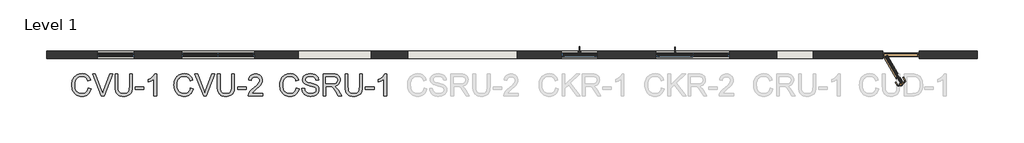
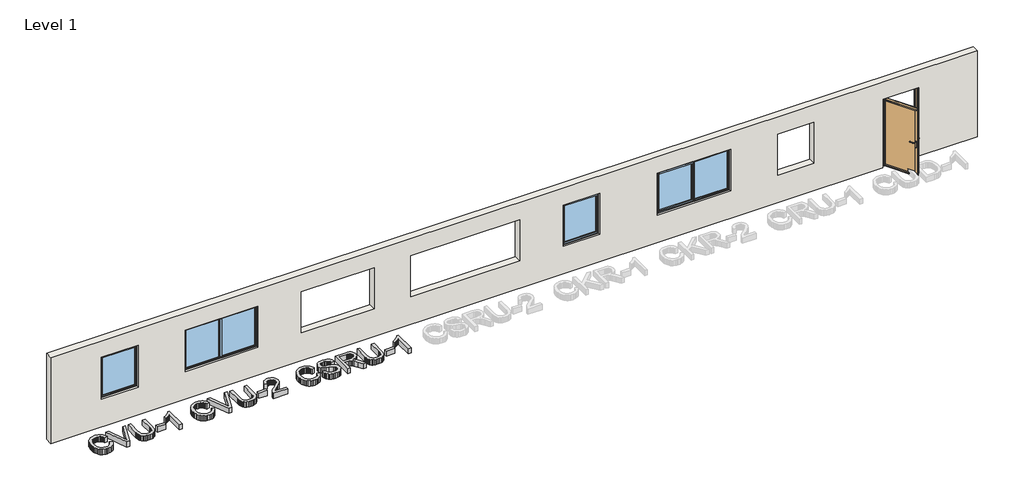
# One storey, part 1 of 2: 4 windows, 3 proxies, 1 door, 1 wall.
"""IFC4 building model written with IfcOpenShell, lengths in millimetres."""

from ifc_helpers import new_model, si_unit, frame, origin, origin_with_axes, place, context, project, spatial, polyline, outline, extrude, transform, mapped, element, save
from components import door_c66387b3, window_e89d8955, window_129eb522, window_659a14fe, window_532ae94f

model = new_model("IFC4")

# Units and contexts
model_context = context("Model", 3, world=origin())
ifc_project = project(units=[si_unit("LENGTHUNIT", "METRE", prefix="MILLI")], contexts=[model_context])

# Site, building, storey
site = spatial("IfcSite", under=ifc_project)
building = spatial("IfcBuilding", under=site)
storey = spatial("IfcBuildingStorey", under=building, Name="Level 1", Elevation=0.0)

# Proxies
placement = place(None, origin())
element("IfcBuildingElementProxy", 1, Name="600mm Arial", ObjectType="600mm Arial", at=placement, inside=storey, context=model_context, shape_type="SweptSolid", body=[
    extrude(outline(polyline([(-10827.2834021, -1969.3341374), (-10751.9411695, -1988.7583067), (-10766.8495874, -2035.6126773), (-10786.7060181, -2076.5533449), (-10811.5104616, -2111.5803093), (-10841.262918, -2140.6935707), (-10875.2920025, -2163.5804293), (-10912.9263306, -2179.9281855), (-10954.1659023, -2189.7368392), (-10999.0107175, -2193.0063904), (-11044.9545802, -2190.532384), (-11086.4010855, -2183.1103648), (-11123.3502333, -2170.7403327), (-11155.8020238, -2153.4222877), (-11184.2025139, -2131.4137474), (-11208.9977603, -2104.972229), (-11230.1877633, -2074.0977325), (-11247.7725226, -2038.7902581), (-11261.581893, -2000.5765158), (-11271.445729, -1960.9832161), (-11277.3640306, -1920.0103589), (-11279.3367978, -1877.6579442), (-11277.1065132, -1832.2153207), (-11270.4156594, -1789.7709355), (-11259.2642365, -1750.3247886), (-11243.6522443, -1713.8768799), (-11223.9291708, -1681.0296163), (-11200.444504, -1652.3854044), (-11173.1982437, -1627.9442444), (-11142.19039, -1607.7061361), (-11108.4740052, -1591.8366265), (-11073.1021513, -1580.5012626), (-11036.0748285, -1573.7000442), (-10997.3920367, -1571.4329714), (-10954.2992595, -1574.3668303), (-10914.7841347, -1583.168407), (-10878.8466623, -1597.8377016), (-10846.4868423, -1618.374714), (-10818.2381036, -1644.2368182), (-10794.6338751, -1674.8813884), (-10775.6741567, -1710.3084246), (-10761.3589486, -1750.5179266), (-10836.7011812, -1768.470568), (-10848.5653756, -1738.8422718), (-10862.8208029, -1713.527392), (-10879.4674632, -1692.5259286), (-10898.5053564, -1675.8378816), (-10920.0448472, -1663.1229602), (-10944.1963002, -1654.0408734), (-10970.9597154, -1648.5916213), (-11000.3350927, -1646.775204), (-11034.134251, -1648.7893579), (-11065.0455356, -1654.8318197), (-11093.0689466, -1664.9025893), (-11118.2044839, -1679.0016668), (-11140.1348494, -1696.4944556), (-11158.5427447, -1716.7463595), (-11173.4281699, -1739.7573783), (-11184.7911251, -1765.527512), (-11199.1937052, -1820.6730231), (-11203.9945652, -1877.5107914), (-11198.3107884, -1947.1140649), (-11191.2060674, -1978.3840344), (-11181.2594579, -2007.2995593), (-11168.3100117, -2033.2858237), (-11152.1967803, -2055.7680121), (-11132.9197637, -2074.7461246), (-11110.478962, -2090.220161), (-11085.9642256, -2102.2269096), (-11060.4654048, -2110.8031586), (-11033.9824997, -2115.948908), (-11006.5155102, -2117.6641578), (-10973.7602171, -2115.3281071), (-10943.6260831, -2108.3199551), (-10916.1131084, -2096.6397018), (-10891.2212929, -2080.2873471), (-10869.5392478, -2059.3364675), (-10851.6555843, -2033.8606393), (-10837.5703024, -2003.8598626), (-10827.2834021, -1969.3341374)])), origin_with_axes(), (0.0, 0.0, 1.0), 150.0),
    extrude(outline(polyline([(-10470.4378668, -2183.5886114), (-10710.1497749, -1580.8507505), (-10629.5100415, -1580.8507505), (-10468.9663388, -2015.0986576), (-10436.4455705, -2112.9552683), (-10404.3662605, -2015.0986576), (-10243.3810994, -1580.8507505), (-10162.8885189, -1580.8507505), (-10392.7411894, -2183.5886114), (-10470.4378668, -2183.5886114)])), origin_with_axes(), (0.0, 0.0, 1.0), 150.0),
    extrude(outline(polyline([(-9697.149913, -1580.8507505), (-9621.8076804, -1580.8507505), (-9621.8076804, -1928.5728123), (-9626.9212401, -2010.0034919), (-9633.3131898, -2043.6968842), (-9642.2619193, -2072.708978), (-9654.5399809, -2098.1388209), (-9670.9199267, -2121.0854604), (-9691.4017568, -2141.5488964), (-9715.9854711, -2159.5291289), (-9744.6986608, -2174.1754308), (-9777.5689171, -2184.637075), (-9814.5962399, -2190.9140616), (-9855.7806293, -2193.0063904), (-9895.9487446, -2191.1853746), (-9932.2816902, -2185.7223269), (-9964.7794659, -2176.6172475), (-9993.4420719, -2163.8701364), (-10018.2741066, -2147.669533), (-10039.2801685, -2128.203977), (-10056.4602577, -2105.4734682), (-10069.8143741, -2079.4780067), (-10079.8253629, -2049.3254787), (-10086.9760692, -2014.1237703), (-10091.2664929, -1973.8728815), (-10092.6966342, -1928.5728123), (-10092.6966342, -1580.8507505), (-10017.3544016, -1580.8507505), (-10017.3544016, -1925.9240619), (-10013.6387934, -1993.6327431), (-10002.491969, -2040.7768208), (-9993.7271804, -2058.1546466), (-9982.2952474, -2073.4263479), (-9968.19617, -2086.5919248), (-9951.429948, -2097.6513773), (-9911.1836578, -2112.6609627), (-9862.8439636, -2117.6641578), (-9821.3192834, -2115.1901514), (-9786.214144, -2107.7681321), (-9757.5285454, -2095.3981001), (-9735.2624877, -2078.0800551), (-9718.5882362, -2053.7262671), (-9706.6780566, -2020.2490055), (-9699.5319489, -1977.6482705), (-9697.149913, -1925.9240619), (-9697.149913, -1580.8507505)])), origin_with_axes(), (0.0, 0.0, 1.0), 150.0),
    extrude(outline(polyline([(-9537.0476687, -2004.6508089), (-9537.0476687, -1929.3085763), (-9301.6031918, -1929.3085763), (-9301.6031918, -2004.6508089), (-9537.0476687, -2004.6508089)])), origin_with_axes(), (0.0, 0.0, 1.0), 150.0),
    extrude(outline(polyline([(-8953.1453659, -2183.5886114), (-9028.4875985, -2183.5886114), (-9028.4875985, -1713.8768799), (-9059.9415091, -1739.3159199), (-9099.8567056, -1764.7181716), (-9141.7584648, -1786.9198501), (-9179.1720638, -1802.7571699), (-9179.1720638, -1731.5352157), (-9119.9982448, -1699.3455411), (-9068.7338888, -1661.0490254), (-9028.3220516, -1620.3244885), (-9001.7057893, -1580.8507505), (-8953.1453659, -1580.8507505), (-8953.1453659, -2183.5886114)])), origin_with_axes(), (0.0, 0.0, 1.0), 150.0),
])
element("IfcBuildingElementProxy", 2, Name="600mm Arial", ObjectType="600mm Arial", at=placement, inside=storey, context=model_context, shape_type="SweptSolid", body=[
    extrude(outline(polyline([(-8027.2834021, -1969.3341374), (-7951.9411695, -1988.7583067), (-7966.8495874, -2035.6126773), (-7986.7060181, -2076.5533449), (-8011.5104616, -2111.5803093), (-8041.262918, -2140.6935707), (-8075.2920025, -2163.5804293), (-8112.9263306, -2179.9281855), (-8154.1659023, -2189.7368392), (-8199.0107175, -2193.0063904), (-8244.9545802, -2190.532384), (-8286.4010855, -2183.1103648), (-8323.3502333, -2170.7403327), (-8355.8020238, -2153.4222877), (-8384.2025139, -2131.4137474), (-8408.9977603, -2104.972229), (-8430.1877633, -2074.0977325), (-8447.7725226, -2038.7902581), (-8461.581893, -2000.5765158), (-8471.445729, -1960.9832161), (-8477.3640306, -1920.0103589), (-8479.3367978, -1877.6579442), (-8477.1065132, -1832.2153207), (-8470.4156594, -1789.7709355), (-8459.2642365, -1750.3247886), (-8443.6522443, -1713.8768799), (-8423.9291708, -1681.0296163), (-8400.444504, -1652.3854044), (-8373.1982437, -1627.9442444), (-8342.19039, -1607.7061361), (-8308.4740052, -1591.8366265), (-8273.1021513, -1580.5012626), (-8236.0748285, -1573.7000442), (-8197.3920367, -1571.4329714), (-8154.2992595, -1574.3668303), (-8114.7841347, -1583.168407), (-8078.8466623, -1597.8377016), (-8046.4868423, -1618.374714), (-8018.2381036, -1644.2368182), (-7994.6338751, -1674.8813884), (-7975.6741567, -1710.3084246), (-7961.3589486, -1750.5179266), (-8036.7011812, -1768.470568), (-8048.5653756, -1738.8422718), (-8062.8208029, -1713.527392), (-8079.4674632, -1692.5259286), (-8098.5053564, -1675.8378816), (-8120.0448472, -1663.1229602), (-8144.1963002, -1654.0408734), (-8170.9597154, -1648.5916213), (-8200.3350927, -1646.775204), (-8234.134251, -1648.7893579), (-8265.0455356, -1654.8318197), (-8293.0689466, -1664.9025893), (-8318.2044839, -1679.0016668), (-8340.1348494, -1696.4944556), (-8358.5427447, -1716.7463595), (-8373.4281699, -1739.7573783), (-8384.7911251, -1765.527512), (-8399.1937052, -1820.6730231), (-8403.9945652, -1877.5107914), (-8398.3107884, -1947.1140649), (-8391.2060674, -1978.3840344), (-8381.2594579, -2007.2995593), (-8368.3100117, -2033.2858237), (-8352.1967803, -2055.7680121), (-8332.9197637, -2074.7461246), (-8310.478962, -2090.220161), (-8285.9642256, -2102.2269096), (-8260.4654048, -2110.8031586), (-8233.9824997, -2115.948908), (-8206.5155102, -2117.6641578), (-8173.7602171, -2115.3281071), (-8143.6260831, -2108.3199551), (-8116.1131084, -2096.6397018), (-8091.2212929, -2080.2873471), (-8069.5392478, -2059.3364675), (-8051.6555843, -2033.8606393), (-8037.5703024, -2003.8598626), (-8027.2834021, -1969.3341374)])), origin_with_axes(), (0.0, 0.0, 1.0), 150.0),
    extrude(outline(polyline([(-7670.4378668, -2183.5886114), (-7910.1497749, -1580.8507505), (-7829.5100415, -1580.8507505), (-7668.9663388, -2015.0986576), (-7636.4455705, -2112.9552683), (-7604.3662605, -2015.0986576), (-7443.3810994, -1580.8507505), (-7362.8885189, -1580.8507505), (-7592.7411894, -2183.5886114), (-7670.4378668, -2183.5886114)])), origin_with_axes(), (0.0, 0.0, 1.0), 150.0),
    extrude(outline(polyline([(-6897.149913, -1580.8507505), (-6821.8076804, -1580.8507505), (-6821.8076804, -1928.5728123), (-6826.9212401, -2010.0034919), (-6833.3131898, -2043.6968842), (-6842.2619193, -2072.708978), (-6854.5399809, -2098.1388209), (-6870.9199267, -2121.0854604), (-6891.4017568, -2141.5488964), (-6915.9854711, -2159.5291289), (-6944.6986608, -2174.1754308), (-6977.5689171, -2184.637075), (-7014.5962399, -2190.9140616), (-7055.7806293, -2193.0063904), (-7095.9487446, -2191.1853746), (-7132.2816902, -2185.7223269), (-7164.7794659, -2176.6172475), (-7193.4420719, -2163.8701364), (-7218.2741066, -2147.669533), (-7239.2801685, -2128.203977), (-7256.4602577, -2105.4734682), (-7269.8143741, -2079.4780067), (-7279.8253629, -2049.3254787), (-7286.9760692, -2014.1237703), (-7291.2664929, -1973.8728815), (-7292.6966342, -1928.5728123), (-7292.6966342, -1580.8507505), (-7217.3544016, -1580.8507505), (-7217.3544016, -1925.9240619), (-7213.6387934, -1993.6327431), (-7202.491969, -2040.7768208), (-7193.7271804, -2058.1546466), (-7182.2952474, -2073.4263479), (-7168.19617, -2086.5919248), (-7151.429948, -2097.6513773), (-7111.1836578, -2112.6609627), (-7062.8439636, -2117.6641578), (-7021.3192834, -2115.1901514), (-6986.214144, -2107.7681321), (-6957.5285454, -2095.3981001), (-6935.2624877, -2078.0800551), (-6918.5882362, -2053.7262671), (-6906.6780566, -2020.2490055), (-6899.5319489, -1977.6482705), (-6897.149913, -1925.9240619), (-6897.149913, -1580.8507505)])), origin_with_axes(), (0.0, 0.0, 1.0), 150.0),
    extrude(outline(polyline([(-6737.0476687, -2004.6508089), (-6737.0476687, -1929.3085763), (-6501.6031918, -1929.3085763), (-6501.6031918, -2004.6508089), (-6737.0476687, -2004.6508089)])), origin_with_axes(), (0.0, 0.0, 1.0), 150.0),
    extrude(outline(polyline([(-6049.5497961, -2108.2463787), (-6049.5497961, -2183.5886114), (-6445.0965173, -2183.5886114), (-6443.4410483, -2157.0643195), (-6437.0031134, -2131.6436736), (-6418.4066785, -2091.0478955), (-6391.1650168, -2051.6661279), (-6351.7832492, -2010.4449503), (-6296.7664968, -1964.3309422), (-6215.48297, -1892.1157066), (-6166.7569997, -1838.8096055), (-6152.5613533, -1817.0309914), (-6142.4216058, -1795.5466828), (-6136.3377573, -1774.3566799), (-6134.3098078, -1753.4609826), (-6136.2273927, -1733.8022885), (-6141.9801474, -1715.734684), (-6151.5680719, -1699.2581691), (-6164.9911662, -1684.3727439), (-6181.5044692, -1672.0440985), (-6200.36302, -1663.2379233), (-6221.5668185, -1657.9542181), (-6245.1158647, -1656.1929831), (-6269.9249068, -1657.9128314), (-6292.1127896, -1663.0723764), (-6311.6795132, -1671.671618), (-6328.6250776, -1683.7105563), (-6342.3332805, -1698.7845211), (-6352.1879194, -1716.4888421), (-6358.1889945, -1736.8235194), (-6360.3365056, -1759.7885529), (-6435.6787382, -1750.3707738), (-6429.1994166, -1711.4764499), (-6417.4133972, -1677.4933506), (-6400.32068, -1648.4214759), (-6377.921265, -1624.2608259), (-6350.730187, -1605.2689179), (-6319.2624808, -1591.7032693), (-6283.5181465, -1583.5638802), (-6243.4971839, -1580.8507505), (-6203.1175364, -1583.8673828), (-6167.180064, -1592.9172799), (-6135.6847667, -1608.0004417), (-6108.6316445, -1629.1168682), (-6086.9036142, -1654.703061), (-6071.3835925, -1683.1955215), (-6062.0715795, -1714.5942498), (-6058.9675752, -1748.8992459), (-6062.3153013, -1784.9332873), (-6072.3584798, -1820.3419293), (-6090.1823624, -1856.3575766), (-6116.8722012, -1894.2126339), (-6159.4177539, -1939.4069371), (-6224.8087786, -1997.4403218), (-6311.4817766, -2069.9130748), (-6345.474073, -2108.2463787), (-6049.5497961, -2108.2463787)])), origin_with_axes(), (0.0, 0.0, 1.0), 150.0),
])
element("IfcBuildingElementProxy", 3, Name="600mm Arial", ObjectType="600mm Arial", at=placement, inside=storey, context=model_context, shape_type="SweptSolid", body=[
    extrude(outline(polyline([(-5128.6523326, -1969.3341374), (-5053.3101, -1988.7583067), (-5068.2185178, -2035.6126773), (-5088.0749485, -2076.5533449), (-5112.8793921, -2111.5803093), (-5142.6318484, -2140.6935707), (-5176.660933, -2163.5804293), (-5214.2952611, -2179.9281855), (-5255.5348327, -2189.7368392), (-5300.3796479, -2193.0063904), (-5346.3235106, -2190.532384), (-5387.7700159, -2183.1103648), (-5424.7191638, -2170.7403327), (-5457.1709543, -2153.4222877), (-5485.5714443, -2131.4137474), (-5510.3666908, -2104.972229), (-5531.5566937, -2074.0977325), (-5549.1414531, -2038.7902581), (-5562.9508235, -2000.5765158), (-5572.8146595, -1960.9832161), (-5578.7329611, -1920.0103589), (-5580.7057283, -1877.6579442), (-5578.4754437, -1832.2153207), (-5571.7845899, -1789.7709355), (-5560.6331669, -1750.3247886), (-5545.0211747, -1713.8768799), (-5525.2981013, -1681.0296163), (-5501.8134344, -1652.3854044), (-5474.5671741, -1627.9442444), (-5443.5593205, -1607.7061361), (-5409.8429356, -1591.8366265), (-5374.4710818, -1580.5012626), (-5337.443759, -1573.7000442), (-5298.7609672, -1571.4329714), (-5255.66819, -1574.3668303), (-5216.1530651, -1583.168407), (-5180.2155927, -1597.8377016), (-5147.8557727, -1618.374714), (-5119.607034, -1644.2368182), (-5096.0028055, -1674.8813884), (-5077.0430872, -1710.3084246), (-5062.7278791, -1750.5179266), (-5138.0701117, -1768.470568), (-5149.934306, -1738.8422718), (-5164.1897333, -1713.527392), (-5180.8363936, -1692.5259286), (-5199.8742869, -1675.8378816), (-5221.4137777, -1663.1229602), (-5245.5652307, -1654.0408734), (-5272.3286458, -1648.5916213), (-5301.7040231, -1646.775204), (-5335.5031814, -1648.7893579), (-5366.4144661, -1654.8318197), (-5394.4378771, -1664.9025893), (-5419.5734144, -1679.0016668), (-5441.5037798, -1696.4944556), (-5459.9116752, -1716.7463595), (-5474.7971004, -1739.7573783), (-5486.1600555, -1765.527512), (-5500.5626356, -1820.6730231), (-5505.3634957, -1877.5107914), (-5499.6797188, -1947.1140649), (-5492.5749978, -1978.3840344), (-5482.6283884, -2007.2995593), (-5469.6789421, -2033.2858237), (-5453.5657107, -2055.7680121), (-5434.2886942, -2074.7461246), (-5411.8478925, -2090.220161), (-5387.333156, -2102.2269096), (-5361.8343352, -2110.8031586), (-5335.3514301, -2115.948908), (-5307.8844406, -2117.6641578), (-5275.1291475, -2115.3281071), (-5244.9950136, -2108.3199551), (-5217.4820389, -2096.6397018), (-5192.5902234, -2080.2873471), (-5170.9081783, -2059.3364675), (-5153.0245148, -2033.8606393), (-5138.9392329, -2003.8598626), (-5128.6523326, -1969.3341374)])), origin_with_axes(), (0.0, 0.0, 1.0), 150.0),
    extrude(outline(polyline([(-4977.9678674, -1976.3974717), (-4902.6256348, -1976.3974717), (-4893.9804079, -2018.2072604), (-4878.3454231, -2051.8132807), (-4853.9548468, -2078.4847253), (-4819.0428455, -2099.4907873), (-4776.368534, -2113.1208152), (-4728.6910274, -2117.6641578), (-4686.7156918, -2114.2244612), (-4649.9642805, -2103.9053712), (-4620.184233, -2087.5714106), (-4599.1229887, -2066.0871021), (-4586.5966068, -2041.4206143), (-4582.4211462, -2015.540116), (-4585.5481431, -1990.3218052), (-4594.929134, -1968.524797), (-4613.9854213, -1949.9283621), (-4646.1383077, -1934.3117714), (-4755.8407187, -1905.5433994), (-4827.8536192, -1886.5055061), (-4873.9308391, -1868.3873179), (-4911.4364085, -1843.0402484), (-4938.0158827, -1812.3221018), (-4953.8532026, -1776.8950657), (-4959.1323092, -1737.4213276), (-4957.4998329, -1714.9851244), (-4952.6024038, -1693.2938823), (-4944.440022, -1672.3476012), (-4933.0126876, -1652.1462811), (-4918.4491591, -1633.5130581), (-4900.8781953, -1617.271068), (-4880.2997962, -1603.4203109), (-4856.7139618, -1591.9607867), (-4803.7021663, -1576.5649252), (-4745.024988, -1571.4329714), (-4681.4549793, -1576.8040485), (-4625.8312216, -1592.9172799), (-4601.4958276, -1604.91943), (-4580.1402778, -1619.4415718), (-4561.7645721, -1636.4837052), (-4546.3687106, -1656.0458303), (-4534.0722549, -1677.5577299), (-4524.9947667, -1700.4491871), (-4519.1362459, -1724.7202017), (-4516.4966926, -1750.3707738), (-4591.8389252, -1750.3707738), (-4596.8789086, -1726.3296854), (-4605.6712883, -1705.415594), (-4618.2160643, -1687.6284996), (-4634.5132367, -1672.968402), (-4654.8663081, -1661.5088779), (-4679.5787811, -1653.3235035), (-4708.6506558, -1648.4122789), (-4742.0819321, -1646.775204), (-4776.5800662, -1648.3938848), (-4806.056611, -1653.2499271), (-4830.5115667, -1661.343331), (-4849.9449331, -1672.6740965), (-4864.7521834, -1686.2949273), (-4875.3287907, -1701.2585275), (-4881.6747551, -1717.5648969), (-4883.7900766, -1735.2140356), (-4882.2909575, -1750.398365), (-4877.7936001, -1764.1663487), (-4870.2980044, -1776.5179866), (-4859.8041705, -1787.4532789), (-4843.2862689, -1797.8091571), (-4817.2770119, -1808.2753999), (-4736.7844313, -1829.5389792), (-4653.7166768, -1849.7357007), (-4603.4639963, -1867.3572483), (-4560.5137733, -1894.6908805), (-4543.9084998, -1910.7581267), (-4530.5497848, -1928.4256595), (-4520.2812786, -1947.6015085), (-4512.9466314, -1968.1937032), (-4507.0789135, -2013.6271296), (-4508.7665722, -2037.1945699), (-4513.8295482, -2060.0722315), (-4522.2678414, -2082.2601143), (-4534.081452, -2103.7582184), (-4549.0634462, -2123.7342107), (-4567.0068906, -2141.3557583), (-4587.9117849, -2156.6228611), (-4611.7781294, -2169.5355191), (-4637.9115466, -2179.8040253), (-4665.6176594, -2187.1386726), (-4725.7479715, -2193.0063904), (-4764.288209, -2191.4244979), (-4799.5634938, -2186.6788201), (-4831.5738259, -2178.7693572), (-4860.3192053, -2167.6961092), (-4885.974376, -2153.4406818), (-4908.7140818, -2135.9846812), (-4928.5383228, -2115.3281071), (-4945.447099, -2091.4709598), (-4959.0679299, -2065.1857912), (-4969.0283349, -2037.2451537), (-4975.3283141, -2007.6490472), (-4977.9678674, -1976.3974717)])), origin_with_axes(), (0.0, 0.0, 1.0), 150.0),
    extrude(outline(polyline([(-4394.0655646, -2183.5886114), (-4394.0655646, -1580.8507505), (-4134.340876, -1580.8507505), (-4064.5352674, -1584.9158465), (-4013.749158, -1597.1111346), (-3994.1502447, -1606.8048252), (-3976.6298647, -1619.6255127), (-3961.188018, -1635.5731972), (-3947.8247045, -1654.6478787), (-3937.0411635, -1675.824086), (-3929.3386342, -1698.0763482), (-3924.7171167, -1721.4046652), (-3923.1766108, -1745.8090371), (-3925.7287921, -1776.766307), (-3933.3853362, -1805.1851911), (-3946.1462429, -1831.0656895), (-3964.0115123, -1854.4078021), (-3987.2110706, -1874.4665679), (-4015.9748441, -1890.4970258), (-4050.3028328, -1902.4991759), (-4090.1950366, -1910.4730181), (-4065.3630019, -1926.6966141), (-4047.3735724, -1942.6994809), (-4016.508273, -1979.3037394), (-3986.3051612, -2020.2490055), (-3885.7998001, -2183.5886114), (-3973.3557149, -2183.5886114), (-4051.7881563, -2058.6558858), (-4108.4419836, -1975.9560133), (-4129.5032278, -1951.8413485), (-4148.2468155, -1936.8869454), (-4184.0785218, -1922.5395476), (-4227.7829028, -1919.8907972), (-4318.723332, -1919.8907972), (-4318.723332, -2183.5886114), (-4394.0655646, -2183.5886114)]), holes=[polyline([(-4318.723332, -1844.5485646), (-4150.0862254, -1844.5485646), (-4101.6545608, -1841.8814201), (-4064.075415, -1833.8799867), (-4035.7852895, -1820.0108355), (-4015.220686, -1799.7405376), (-4002.6943041, -1775.2212026), (-3998.5188434, -1748.6049403), (-4000.5100047, -1729.3371208), (-4006.4834886, -1711.8535289), (-4016.4392951, -1696.1541648), (-4030.3774242, -1682.2390283), (-4048.6197726, -1670.8438835), (-4071.4882372, -1662.7044944), (-4098.9828178, -1657.8208609), (-4131.1035145, -1656.1929831), (-4318.723332, -1656.1929831), (-4318.723332, -1844.5485646)])]), origin_with_axes(), (0.0, 0.0, 1.0), 150.0),
    extrude(outline(polyline([(-3395.7809825, -1580.8507505), (-3320.4387499, -1580.8507505), (-3320.4387499, -1928.5728123), (-3325.5523096, -2010.0034919), (-3331.9442593, -2043.6968842), (-3340.8929888, -2072.708978), (-3353.1710504, -2098.1388209), (-3369.5509963, -2121.0854604), (-3390.0328263, -2141.5488964), (-3414.6165407, -2159.5291289), (-3443.3297304, -2174.1754308), (-3476.1999867, -2184.637075), (-3513.2273095, -2190.9140616), (-3554.4116988, -2193.0063904), (-3594.5798142, -2191.1853746), (-3630.9127597, -2185.7223269), (-3663.4105355, -2176.6172475), (-3692.0731414, -2163.8701364), (-3716.9051761, -2147.669533), (-3737.911238, -2128.203977), (-3755.0913272, -2105.4734682), (-3768.4454436, -2079.4780067), (-3778.4564324, -2049.3254787), (-3785.6071387, -2014.1237703), (-3789.8975625, -1973.8728815), (-3791.3277037, -1928.5728123), (-3791.3277037, -1580.8507505), (-3715.9854711, -1580.8507505), (-3715.9854711, -1925.9240619), (-3712.269863, -1993.6327431), (-3701.1230385, -2040.7768208), (-3692.35825, -2058.1546466), (-3680.926317, -2073.4263479), (-3666.8272395, -2086.5919248), (-3650.0610176, -2097.6513773), (-3609.8147273, -2112.6609627), (-3561.4750331, -2117.6641578), (-3519.9503529, -2115.1901514), (-3484.8452135, -2107.7681321), (-3456.159615, -2095.3981001), (-3433.8935572, -2078.0800551), (-3417.2193058, -2053.7262671), (-3405.3091262, -2020.2490055), (-3398.1630184, -1977.6482705), (-3395.7809825, -1925.9240619), (-3395.7809825, -1580.8507505)])), origin_with_axes(), (0.0, 0.0, 1.0), 150.0),
    extrude(outline(polyline([(-3235.6787382, -2004.6508089), (-3235.6787382, -1929.3085763), (-3000.2342613, -1929.3085763), (-3000.2342613, -2004.6508089), (-3235.6787382, -2004.6508089)])), origin_with_axes(), (0.0, 0.0, 1.0), 150.0),
    extrude(outline(polyline([(-2651.7764355, -2183.5886114), (-2727.1186681, -2183.5886114), (-2727.1186681, -1713.8768799), (-2758.5725787, -1739.3159199), (-2798.4877751, -1764.7181716), (-2840.3895344, -1786.9198501), (-2877.8031333, -1802.7571699), (-2877.8031333, -1731.5352157), (-2818.6293144, -1699.3455411), (-2767.3649584, -1661.0490254), (-2726.9531212, -1620.3244885), (-2700.3368588, -1580.8507505), (-2651.7764355, -1580.8507505), (-2651.7764355, -2183.5886114)])), origin_with_axes(), (0.0, 0.0, 1.0), 150.0),
])

# Door
door_shape = door_c66387b3(model_context)
element("IfcDoor", 4, ObjectType="Comfort+_CUD-1_Metaglas : KozijnMerk", at=placement, inside=storey, context=model_context, shape_type="MappedRepresentation", body=[
    mapped(door_shape, transform((11429.9332251, -1049.9887759, -800.0), x_axis=(-1.0, 0.0, 0.0), y_axis=(0.0, -1.0, 0.0), z_axis=(0.0, 0.0, 1.0))),
])

# Wall
element("IfcWall", 5, ObjectType="Generic - 200mm", at=placement, inside=storey, context=model_context, shape_type="SweptSolid", body=[
    extrude(outline(polyline([(0.0, 13529.9332251), (2500.0, 13529.9332251), (2500.0, -11970.0667749), (0.0, -11970.0667749), (0.0, 10929.9332251), (2000.0, 10929.9332251), (2000.0, 11929.9332251), (0.0, 11929.9332251), (0.0, 13529.9332251)]), holes=[polyline([(2016.0, -9562.0667749), (800.0, -9562.0667749), (800.0, -10578.0667749), (2016.0, -10578.0667749), (2016.0, -9562.0667749)]), polyline([(2000.0, -6270.0667749), (800.0, -6270.0667749), (800.0, -8270.0667749), (2000.0, -8270.0667749), (2000.0, -6270.0667749)]), polyline([(2000.0, -3070.0667749), (800.0, -3070.0667749), (800.0, -5070.0667749), (2000.0, -5070.0667749), (2000.0, -3070.0667749)]), polyline([(2000.0, 929.9332251), (800.0, 929.9332251), (800.0, -2070.0667749), (2000.0, -2070.0667749), (2000.0, 929.9332251)]), polyline([(2000.0, 3129.9332251), (800.0, 3129.9332251), (800.0, 2129.9332251), (2000.0, 2129.9332251), (2000.0, 3129.9332251)]), polyline([(2016.0, 6737.9332251), (800.0, 6737.9332251), (800.0, 4721.9332251), (2016.0, 4721.9332251), (2016.0, 6737.9332251)]), polyline([(800.0, 9029.9332251), (800.0, 8029.9332251), (2000.0, 8029.9332251), (2000.0, 9029.9332251), (800.0, 9029.9332251)])]), frame((0.0, -1149.9887759, 0.0), z_axis=(0.0, 1.0, 0.0), x_axis=(0.0, 0.0, 1.0)), (0.0, 0.0, 1.0), 200.0),
])

# Windows
window_shape = window_e89d8955(model_context)
element("IfcWindow", 6, ObjectType="Comfort+_CKR-1_Metaglas : KozijnMerk", at=placement, inside=storey, context=model_context, shape_type="MappedRepresentation", body=[
    mapped(window_shape, transform((2629.9332251, -1049.9887759, 0.0), x_axis=(-1.0, 0.0, 0.0), y_axis=(0.0, -1.0, 0.0), z_axis=(0.0, 0.0, 1.0))),
])
window_2_shape = window_129eb522(model_context)
element("IfcWindow", 7, ObjectType="Comfort+_CVU-1_Metaglas : KozijnMerk", at=placement, inside=storey, context=model_context, shape_type="MappedRepresentation", body=[
    mapped(window_2_shape, transform((-10070.0667749, -1049.9887759, 0.0), x_axis=(-1.0, 0.0, 0.0), y_axis=(0.0, -1.0, 0.0), z_axis=(0.0, 0.0, 1.0))),
])
window_3_shape = window_659a14fe(model_context)
element("IfcWindow", 8, ObjectType="Comfort+_CVU-2_Metaglas : KozijnMerk", at=placement, inside=storey, context=model_context, shape_type="MappedRepresentation", body=[
    mapped(window_3_shape, transform((-7270.0667749, -1049.9887759, 0.0), x_axis=(-1.0, 0.0, 0.0), y_axis=(0.0, -1.0, 0.0), z_axis=(0.0, 0.0, 1.0))),
])
window_4_shape = window_532ae94f(model_context)
element("IfcWindow", 9, ObjectType="Comfort+_CKR-2_Metaglas : KozijnMerk", at=placement, inside=storey, context=model_context, shape_type="MappedRepresentation", body=[
    mapped(window_4_shape, transform((5729.9332251, -1049.9887759, 0.0), x_axis=(-1.0, 0.0, 0.0), y_axis=(0.0, -1.0, 0.0), z_axis=(0.0, 0.0, 1.0))),
])

save(model, "model.ifc")
